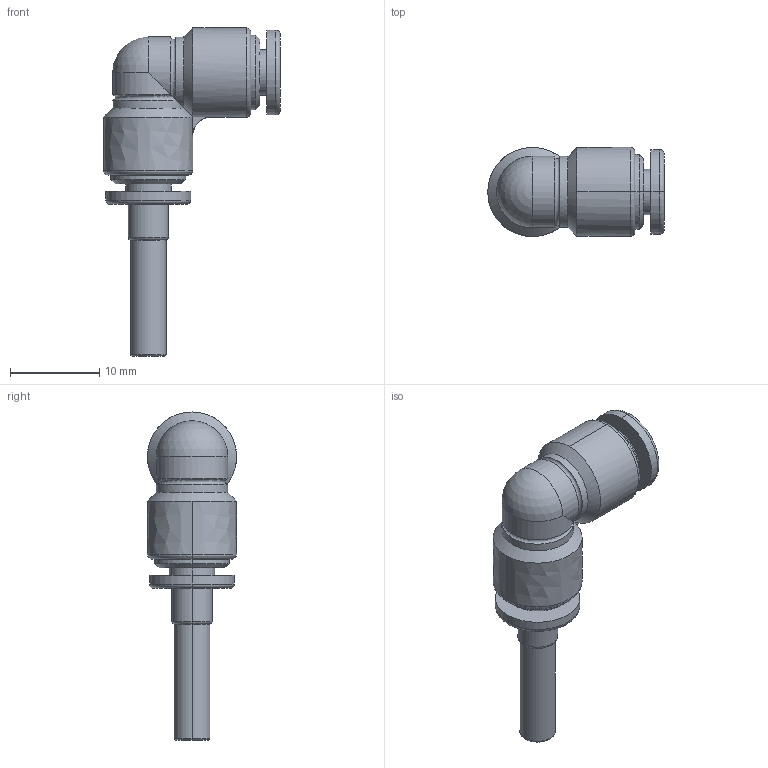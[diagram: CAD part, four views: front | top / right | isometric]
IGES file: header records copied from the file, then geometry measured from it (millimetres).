
Global section: file name: No Iges File Name specified; native system: AutoDesk Inventor R11.0; preprocessor: AutoDesk Inventor Iges Exporter R11.0; author: No Author specified; organization: No Organization specified; date: 20120321.163352; units: millimetre
Bounding box: 19.8 x 10 x 36.8 mm (x, y, z)
Volume: 1847.5 mm3; surface area: 1727.5 mm2
Topology: 1 solids, 1 shells, 67 faces, 146 edges, 89 vertices
Faces by surface type: cylinder 20, bspline 15, plane 14, torus 8, cone 5, revolution 4, sphere 1
